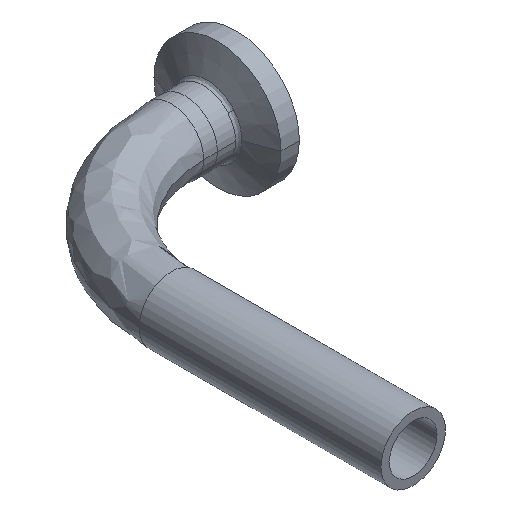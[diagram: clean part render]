
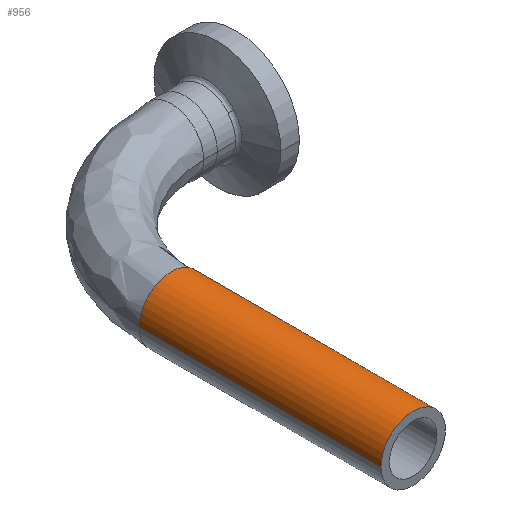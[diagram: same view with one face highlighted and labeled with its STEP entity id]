
A CAD part, isometric view. The second image highlights one B-rep face of the part: STEP entity #956.
In plain terms, the highlighted cylindrical face has radius 6.35 mm (diameter 12.7 mm), a partial arc.
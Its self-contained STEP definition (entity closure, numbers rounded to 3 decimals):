
#25 = VECTOR ( 'NONE', #807, 1000. ) ;
#51 = CARTESIAN_POINT ( 'NONE',  ( 0., 47.6, 0. ) ) ;
#107 = EDGE_CURVE ( 'NONE', #376, #557, #150, .T. ) ;
#150 = CIRCLE ( 'NONE', #1048, 6.35 ) ;
#212 = DIRECTION ( 'NONE',  ( 1., 0., 0. ) ) ;
#244 = DIRECTION ( 'NONE',  ( 0., 1., 0. ) ) ;
#290 = VERTEX_POINT ( 'NONE', #1071 ) ;
#302 = ORIENTED_EDGE ( 'NONE', *, *, #1170, .F. ) ;
#319 = DIRECTION ( 'NONE',  ( 1., 0., 0. ) ) ;
#376 = VERTEX_POINT ( 'NONE', #1259 ) ;
#505 = FACE_OUTER_BOUND ( 'NONE', #1065, .T. ) ;
#524 = LINE ( 'NONE', #798, #25 ) ;
#552 = EDGE_CURVE ( 'NONE', #1022, #290, #1056, .T. ) ;
#553 = CARTESIAN_POINT ( 'NONE',  ( -6.35, 47.6, 0. ) ) ;
#557 = VERTEX_POINT ( 'NONE', #553 ) ;
#566 = LINE ( 'NONE', #736, #890 ) ;
#609 = CYLINDRICAL_SURFACE ( 'NONE', #634, 6.35 ) ;
#634 = AXIS2_PLACEMENT_3D ( 'NONE', #51, #1253, #319 ) ;
#692 = AXIS2_PLACEMENT_3D ( 'NONE', #826, #244, #212 ) ;
#707 = CARTESIAN_POINT ( 'NONE',  ( 0., 47.6, 0. ) ) ;
#731 = ORIENTED_EDGE ( 'NONE', *, *, #107, .T. ) ;
#736 = CARTESIAN_POINT ( 'NONE',  ( -6.35, 47.6, 0. ) ) ;
#770 = CARTESIAN_POINT ( 'NONE',  ( -6.35, 0., 0. ) ) ;
#798 = CARTESIAN_POINT ( 'NONE',  ( 6.35, 47.6, 0. ) ) ;
#807 = DIRECTION ( 'NONE',  ( 0., -1., 0. ) ) ;
#825 = DIRECTION ( 'NONE',  ( 1., 0., 0. ) ) ;
#826 = CARTESIAN_POINT ( 'NONE',  ( 0., 0., 0. ) ) ;
#834 = DIRECTION ( 'NONE',  ( 0., -1., 0. ) ) ;
#835 = DIRECTION ( 'NONE',  ( 0., -1., 0. ) ) ;
#890 = VECTOR ( 'NONE', #834, 1000. ) ;
#956 = ADVANCED_FACE ( 'NONE', ( #505 ), #609, .T. ) ;
#963 = EDGE_CURVE ( 'NONE', #557, #1022, #566, .T. ) ;
#1006 = ORIENTED_EDGE ( 'NONE', *, *, #963, .T. ) ;
#1022 = VERTEX_POINT ( 'NONE', #770 ) ;
#1048 = AXIS2_PLACEMENT_3D ( 'NONE', #707, #835, #825 ) ;
#1056 = CIRCLE ( 'NONE', #692, 6.35 ) ;
#1065 = EDGE_LOOP ( 'NONE', ( #731, #1006, #1194, #302 ) ) ;
#1071 = CARTESIAN_POINT ( 'NONE',  ( 6.35, 0., 0. ) ) ;
#1170 = EDGE_CURVE ( 'NONE', #376, #290, #524, .T. ) ;
#1194 = ORIENTED_EDGE ( 'NONE', *, *, #552, .T. ) ;
#1253 = DIRECTION ( 'NONE',  ( 0., -1., 0. ) ) ;
#1259 = CARTESIAN_POINT ( 'NONE',  ( 6.35, 47.6, 0. ) ) ;
